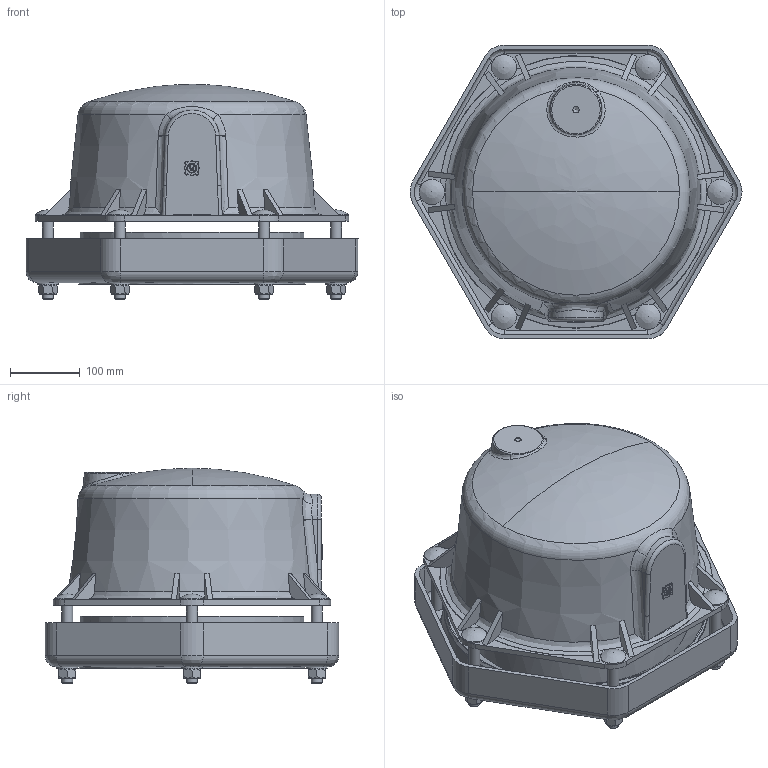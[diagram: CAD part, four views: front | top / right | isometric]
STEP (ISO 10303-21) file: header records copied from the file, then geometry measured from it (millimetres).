
FILE_DESCRIPTION((''),'2;1');
FILE_NAME('P:\Fastrack\54361_VIKING JOHNSON 3D\ULTRAGRIP\Component Parts\Components Built up\End-Cap\250MM-UltraGrip-End-Cap.stp','2012-04-24T10:49:47',('dcole'),(''),'Autodesk Inventor 2008','Autodesk Inventor 2008','');
FILE_SCHEMA(('AUTOMOTIVE_DESIGN { 1 0 10303 214 1 1 1 1 }'));
Length unit declared in the file: millimetre
Products named in the file (1): 250MM-UltraGrip-End-Cap
Bounding box: 475.68 x 420.52 x 308.29 mm (x, y, z)
Surface area: 1191808.1 mm2 (no closed solid volume)
Topology: 0 solids, 1 shells, 1114 faces, 3210 edges, 2104 vertices
Faces by surface type: cone 466, plane 273, cylinder 204, bspline 124, torus 45, sphere 2
Full cylindrical faces by diameter (mm): 9 x1, 12.183 x12, 13 x1, 15.8 x12, 16 x6, 30 x6, 36 x6, 309.5 x1, 311.5 x2, 312.25 x1, 321.5 x1, 390 x1
Entity records: 48158 total; most frequent: CARTESIAN_POINT 18637, ORIENTED_EDGE 6138, DIRECTION 5756, EDGE_CURVE 3069, AXIS2_PLACEMENT_3D 2133, VERTEX_POINT 2054, VECTOR 1490, LINE 1490
